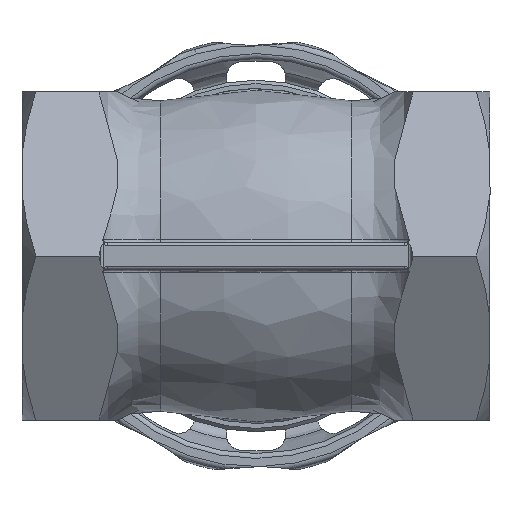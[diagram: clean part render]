
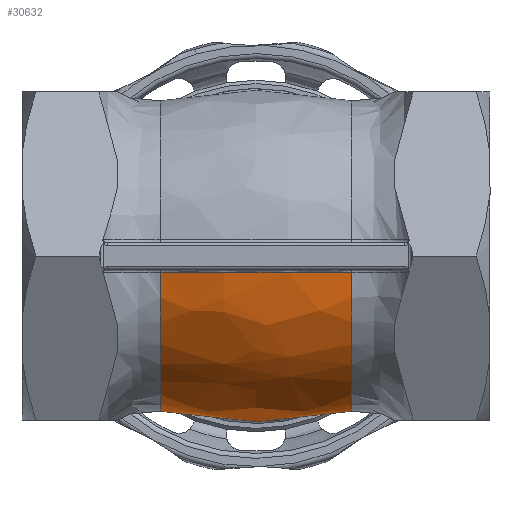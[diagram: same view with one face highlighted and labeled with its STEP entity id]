
A CAD part, front view. The second image highlights one B-rep face of the part: STEP entity #30632.
In plain terms, the highlighted free-form (B-spline) face has degree [2, 2] with [3, 9] control points.
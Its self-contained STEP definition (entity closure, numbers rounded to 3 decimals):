
#26449=CARTESIAN_POINT('',(20.7,15.021,-17.688));
#26450=VERTEX_POINT('',#26449);
#26458=CARTESIAN_POINT('',(20.7,-23.076,-2.448));
#26459=VERTEX_POINT('',#26458);
#26460=CARTESIAN_POINT('',(20.7,0.,0.0));
#26461=DIRECTION('',(-1.0,0.0,0.0));
#26462=DIRECTION('',(0.0,-1.0,0.0));
#26463=AXIS2_PLACEMENT_3D('',#26460,#26461,#26462);
#26464=CIRCLE('',#26463,23.205);
#26465=EDGE_CURVE('',#26450,#26459,#26464,.T.);
#27769=CARTESIAN_POINT('',(49.2,-23.076,-2.448));
#27770=VERTEX_POINT('',#27769);
#27786=CARTESIAN_POINT('',(49.2,15.02,-17.689));
#27787=VERTEX_POINT('',#27786);
#27788=CARTESIAN_POINT('',(49.2,0.,0.0));
#27789=DIRECTION('',(-1.0,0.0,0.0));
#27790=DIRECTION('',(0.0,-1.0,0.0));
#27791=AXIS2_PLACEMENT_3D('',#27788,#27789,#27790);
#27792=CIRCLE('',#27791,23.205);
#27793=EDGE_CURVE('',#27787,#27770,#27792,.T.);
#30259=CARTESIAN_POINT('',(42.64,8.623,-22.714));
#30260=VERTEX_POINT('',#30259);
#30261=CARTESIAN_POINT('',(49.2,15.02,-17.689));
#30262=CARTESIAN_POINT('',(49.121,14.631,-18.042));
#30263=CARTESIAN_POINT('',(48.899,13.842,-18.727));
#30264=CARTESIAN_POINT('',(48.394,12.652,-19.676));
#30265=CARTESIAN_POINT('',(47.793,11.594,-20.449));
#30266=CARTESIAN_POINT('',(47.291,10.889,-20.932));
#30267=CARTESIAN_POINT('',(46.987,10.513,-21.184));
#30268=CARTESIAN_POINT('',(46.565,10.016,-21.512));
#30269=CARTESIAN_POINT('',(45.795,9.255,-22.));
#30270=CARTESIAN_POINT('',(44.74,8.649,-22.412));
#30271=CARTESIAN_POINT('',(43.909,8.489,-22.595));
#30272=CARTESIAN_POINT('',(43.345,8.464,-22.684));
#30273=CARTESIAN_POINT('',(42.911,8.54,-22.712));
#30274=CARTESIAN_POINT('',(42.64,8.623,-22.714));
#30275=B_SPLINE_CURVE_WITH_KNOTS('',3,(#30261,#30262,#30263,#30264,#30265,#30266,#30267,#30268,#30269,#30270,#30271,#30272,#30273,#30274),.UNSPECIFIED.,.F.,.U.,(4,1,1,1,1,1,1,1,1,1,1,4),(0.076,0.255,0.434,0.613,0.732,0.762,0.792,0.971,1.15,1.195,1.239,1.329),.UNSPECIFIED.);
#30276=EDGE_CURVE('',#27787,#30260,#30275,.T.);
#30343=CARTESIAN_POINT('',(27.26,8.623,-22.714));
#30344=VERTEX_POINT('',#30343);
#30345=CARTESIAN_POINT('',(42.64,8.623,-22.714));
#30346=CARTESIAN_POINT('',(41.935,8.839,-22.719));
#30347=CARTESIAN_POINT('',(40.499,9.204,-22.728));
#30348=CARTESIAN_POINT('',(38.293,9.565,-22.738));
#30349=CARTESIAN_POINT('',(36.06,9.743,-22.742));
#30350=CARTESIAN_POINT('',(33.094,9.743,-22.742));
#30351=CARTESIAN_POINT('',(30.119,9.387,-22.733));
#30352=CARTESIAN_POINT('',(27.965,8.839,-22.719));
#30353=CARTESIAN_POINT('',(27.26,8.623,-22.714));
#30354=B_SPLINE_CURVE_WITH_KNOTS('',3,(#30345,#30346,#30347,#30348,#30349,#30350,#30351,#30352,#30353),.UNSPECIFIED.,.F.,.U.,(4,1,1,1,1,1,4),(0.0,0.232,0.464,0.697,0.929,1.393,1.626),.UNSPECIFIED.);
#30355=EDGE_CURVE('',#30260,#30344,#30354,.T.);
#30469=CARTESIAN_POINT('',(27.26,8.623,-22.714));
#30470=CARTESIAN_POINT('',(26.989,8.54,-22.712));
#30471=CARTESIAN_POINT('',(26.555,8.464,-22.684));
#30472=CARTESIAN_POINT('',(25.991,8.49,-22.595));
#30473=CARTESIAN_POINT('',(25.16,8.649,-22.412));
#30474=CARTESIAN_POINT('',(24.104,9.254,-22.));
#30475=CARTESIAN_POINT('',(23.156,10.193,-21.399));
#30476=CARTESIAN_POINT('',(22.559,10.954,-20.889));
#30477=CARTESIAN_POINT('',(22.032,11.726,-20.352));
#30478=CARTESIAN_POINT('',(21.505,12.653,-19.675));
#30479=CARTESIAN_POINT('',(21.,13.843,-18.726));
#30480=CARTESIAN_POINT('',(20.779,14.632,-18.041));
#30481=CARTESIAN_POINT('',(20.7,15.021,-17.688));
#30482=B_SPLINE_CURVE_WITH_KNOTS('',3,(#30469,#30470,#30471,#30472,#30473,#30474,#30475,#30476,#30477,#30478,#30479,#30480,#30481),.UNSPECIFIED.,.F.,.U.,(4,1,1,1,1,1,1,1,1,1,4),(0.0,0.09,0.134,0.179,0.358,0.537,0.656,0.716,0.895,1.074,1.253),.UNSPECIFIED.);
#30483=EDGE_CURVE('',#30344,#26450,#30482,.T.);
#30579=CARTESIAN_POINT('',(49.2,0.,-23.205));
#30580=CARTESIAN_POINT('',(34.95,0.,-26.307));
#30581=CARTESIAN_POINT('',(20.7,0.,-23.205));
#30582=CARTESIAN_POINT('',(49.2,23.205,-23.205));
#30583=CARTESIAN_POINT('',(34.95,26.307,-26.307));
#30584=CARTESIAN_POINT('',(20.7,23.205,-23.205));
#30585=CARTESIAN_POINT('',(49.2,23.205,0.));
#30586=CARTESIAN_POINT('',(34.95,26.307,0.));
#30587=CARTESIAN_POINT('',(20.7,23.205,0.));
#30588=CARTESIAN_POINT('',(49.2,23.205,23.205));
#30589=CARTESIAN_POINT('',(34.95,26.307,26.307));
#30590=CARTESIAN_POINT('',(20.7,23.205,23.205));
#30591=CARTESIAN_POINT('',(49.2,0.,23.205));
#30592=CARTESIAN_POINT('',(34.95,0.,26.307));
#30593=CARTESIAN_POINT('',(20.7,0.,23.205));
#30594=CARTESIAN_POINT('',(49.2,-23.205,23.205));
#30595=CARTESIAN_POINT('',(34.95,-26.307,26.307));
#30596=CARTESIAN_POINT('',(20.7,-23.205,23.205));
#30597=CARTESIAN_POINT('',(49.2,-23.205,0.));
#30598=CARTESIAN_POINT('',(34.95,-26.307,0.));
#30599=CARTESIAN_POINT('',(20.7,-23.205,0.));
#30600=CARTESIAN_POINT('',(49.2,-23.205,-23.205));
#30601=CARTESIAN_POINT('',(34.95,-26.307,-26.307));
#30602=CARTESIAN_POINT('',(20.7,-23.205,-23.205));
#30603=CARTESIAN_POINT('',(49.2,0.,-23.205));
#30604=CARTESIAN_POINT('',(34.95,0.,-26.307));
#30605=CARTESIAN_POINT('',(20.7,0.,-23.205));
#30613=(BOUNDED_SURFACE()B_SPLINE_SURFACE(2,2,((#30579,#30582,#30585,#30588,#30591,#30594,#30597,#30600,#30603),(#30580,#30583,#30586,#30589,#30592,#30595,#30598,#30601,#30604),(#30581,#30584,#30587,#30590,#30593,#30596,#30599,#30602,#30605)),.UNSPECIFIED.,.F.,.T.,.U.)B_SPLINE_SURFACE_WITH_KNOTS((3,3),(3,2,2,2,3),(-0.214,0.214),(0.0,1.571,3.142,4.712,6.283),.UNSPECIFIED.)GEOMETRIC_REPRESENTATION_ITEM()RATIONAL_B_SPLINE_SURFACE(((1.0,0.707,1.0,0.707,1.0,0.707,1.0,0.707,1.0),(0.977,0.691,0.977,0.691,0.977,0.691,0.977,0.691,0.977),(1.0,0.707,1.0,0.707,1.0,0.707,1.0,0.707,1.0)))REPRESENTATION_ITEM('')SURFACE());
#30614=ORIENTED_EDGE('',*,*,#30483,.F.);
#30615=ORIENTED_EDGE('',*,*,#30355,.F.);
#30616=ORIENTED_EDGE('',*,*,#30276,.F.);
#30617=ORIENTED_EDGE('',*,*,#27793,.T.);
#30618=CARTESIAN_POINT('',(20.7,-23.076,-2.448));
#30619=CARTESIAN_POINT('',(22.033,-23.368,-2.449));
#30620=CARTESIAN_POINT('',(24.723,-23.87,-2.45));
#30621=CARTESIAN_POINT('',(28.801,-24.375,-2.45));
#30622=CARTESIAN_POINT('',(32.902,-24.627,-2.45));
#30623=CARTESIAN_POINT('',(39.729,-24.628,-2.45));
#30624=CARTESIAN_POINT('',(45.199,-23.951,-2.45));
#30625=CARTESIAN_POINT('',(49.2,-23.076,-2.448));
#30626=B_SPLINE_CURVE_WITH_KNOTS('',3,(#30618,#30619,#30620,#30621,#30622,#30623,#30624,#30625),.UNSPECIFIED.,.F.,.U.,(4,1,1,1,1,4),(0.0,0.413,0.825,1.238,1.65,2.888),.UNSPECIFIED.);
#30627=EDGE_CURVE('',#26459,#27770,#30626,.T.);
#30628=ORIENTED_EDGE('',*,*,#30627,.F.);
#30629=ORIENTED_EDGE('',*,*,#26465,.F.);
#30630=EDGE_LOOP('',(#30614,#30615,#30616,#30617,#30628,#30629));
#30631=FACE_OUTER_BOUND('',#30630,.T.);
#30632=ADVANCED_FACE('',(#30631),#30613,.T.);
